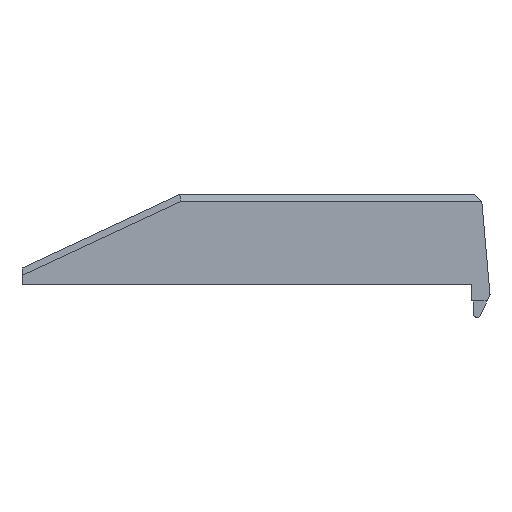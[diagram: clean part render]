
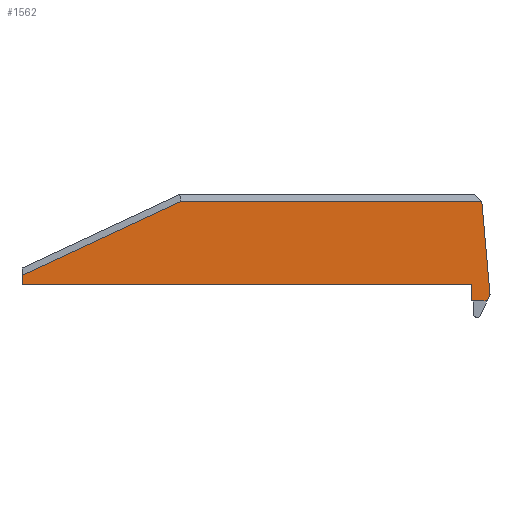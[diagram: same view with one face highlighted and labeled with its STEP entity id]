
A CAD part, left-side view. The second image highlights one B-rep face of the part: STEP entity #1562.
In plain terms, the highlighted planar face has unit normal (-1, 0, 0).
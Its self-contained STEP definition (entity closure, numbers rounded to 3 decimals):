
#1352=PLANE('',#4559);
#1562=ADVANCED_FACE('',(#1749),#1352,.T.);
#1749=FACE_OUTER_BOUND('',#1915,.T.);
#1915=EDGE_LOOP('',(#3545,#3546,#3547,#3548,#3549,#3550,#3551,#3552));
#2264=LINE('',#6272,#2642);
#2265=LINE('',#6277,#2643);
#2269=LINE('',#6287,#2647);
#2270=LINE('',#6289,#2648);
#2273=LINE('',#6295,#2651);
#2286=LINE('',#6321,#2664);
#2289=LINE('',#6327,#2667);
#2290=LINE('',#6329,#2668);
#2642=VECTOR('',#5237,1.);
#2643=VECTOR('',#5238,1.);
#2647=VECTOR('',#5242,1.);
#2648=VECTOR('',#5245,1.);
#2651=VECTOR('',#5250,1.);
#2664=VECTOR('',#5269,1.);
#2667=VECTOR('',#5274,1.);
#2668=VECTOR('',#5277,1.);
#3545=ORIENTED_EDGE('',*,*,#4344,.T.);
#3546=ORIENTED_EDGE('',*,*,#4343,.T.);
#3547=ORIENTED_EDGE('',*,*,#4327,.F.);
#3548=ORIENTED_EDGE('',*,*,#4318,.F.);
#3549=ORIENTED_EDGE('',*,*,#4319,.F.);
#3550=ORIENTED_EDGE('',*,*,#4323,.F.);
#3551=ORIENTED_EDGE('',*,*,#4324,.F.);
#3552=ORIENTED_EDGE('',*,*,#4340,.F.);
#3874=VERTEX_POINT('',#6266);
#3876=VERTEX_POINT('',#6271);
#3877=VERTEX_POINT('',#6278);
#3878=VERTEX_POINT('',#6286);
#3879=VERTEX_POINT('',#6290);
#3881=VERTEX_POINT('',#6296);
#3890=VERTEX_POINT('',#6320);
#3891=VERTEX_POINT('',#6324);
#4318=EDGE_CURVE('',#3876,#3874,#2264,.T.);
#4319=EDGE_CURVE('',#3877,#3876,#2265,.T.);
#4323=EDGE_CURVE('',#3878,#3877,#2269,.T.);
#4324=EDGE_CURVE('',#3879,#3878,#2270,.T.);
#4327=EDGE_CURVE('',#3874,#3881,#2273,.T.);
#4340=EDGE_CURVE('',#3890,#3879,#2286,.T.);
#4343=EDGE_CURVE('',#3891,#3881,#2289,.T.);
#4344=EDGE_CURVE('',#3890,#3891,#2290,.T.);
#4559=AXIS2_PLACEMENT_3D('',#6330,#5278,#5279);
#5237=DIRECTION('',(0.,1.,0.));
#5238=DIRECTION('',(0.,0.,1.));
#5242=DIRECTION('',(0.,1.,0.));
#5245=DIRECTION('',(0.,0.423,-0.906));
#5250=DIRECTION('',(0.,0.,1.));
#5269=DIRECTION('',(0.,-0.087,-0.996));
#5274=DIRECTION('',(0.,0.906,-0.423));
#5277=DIRECTION('',(0.,1.,0.));
#5278=DIRECTION('',(-1.,0.,0.));
#5279=DIRECTION('',(0.,-1.,0.));
#6266=CARTESIAN_POINT('',(-14.75,47.247,5.797));
#6271=CARTESIAN_POINT('',(-14.75,-7.003,5.797));
#6272=CARTESIAN_POINT('',(-14.75,31.747,5.797));
#6277=CARTESIAN_POINT('',(-14.75,-7.003,1.797));
#6278=CARTESIAN_POINT('',(-14.75,-7.003,3.797));
#6286=CARTESIAN_POINT('',(-14.75,-8.903,3.797));
#6287=CARTESIAN_POINT('',(-14.75,31.747,3.797));
#6289=CARTESIAN_POINT('',(-14.75,-0.877,-13.416));
#6290=CARTESIAN_POINT('',(-14.75,-9.253,4.547));
#6295=CARTESIAN_POINT('',(-14.75,47.247,4.786));
#6296=CARTESIAN_POINT('',(-14.75,47.247,6.898));
#6320=CARTESIAN_POINT('',(-14.75,-8.264,15.85));
#6321=CARTESIAN_POINT('',(-14.75,-9.18,5.377));
#6324=CARTESIAN_POINT('',(-14.75,28.051,15.85));
#6327=CARTESIAN_POINT('',(-14.75,46.909,7.056));
#6329=CARTESIAN_POINT('',(-14.75,28.228,15.85));
#6330=CARTESIAN_POINT('',(-14.75,31.747,1.797));
